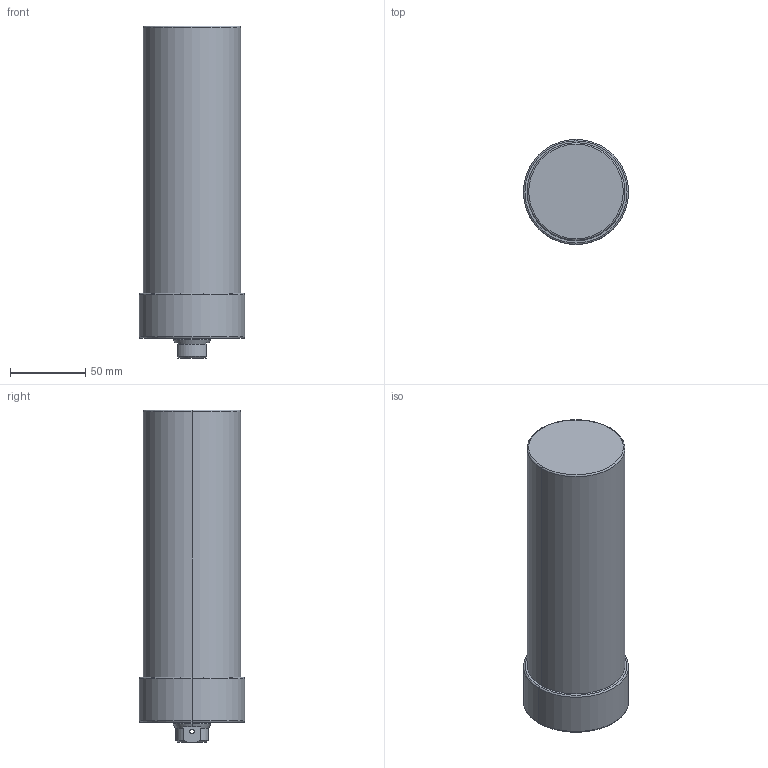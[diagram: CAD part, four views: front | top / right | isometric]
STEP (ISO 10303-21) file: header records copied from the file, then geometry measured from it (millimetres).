
FILE_DESCRIPTION (( 'STEP AP203' ), '1' );
FILE_NAME ('CLLU-065GB-145.STEP', '2020-01-07T06:49:23', ( '' ), ( '' ), 'SwSTEP 2.0', 'SolidWorks 2015', '' );
FILE_SCHEMA (( 'CONFIG_CONTROL_DESIGN' ));
Length unit declared in the file: millimetre
Products named in the file (1): CLLU-065GB-145
Bounding box: 70 x 70 x 221 mm (x, y, z)
Volume: 706483.6 mm3; surface area: 53429.5 mm2
Topology: 1 solids, 1 shells, 66 faces, 154 edges, 87 vertices
Faces by surface type: cylinder 26, cone 24, plane 10, torus 6
Entity records: 2001 total; most frequent: CARTESIAN_POINT 430, DIRECTION 342, ORIENTED_EDGE 288, EDGE_CURVE 144, AXIS2_PLACEMENT_3D 143, VERTEX_POINT 87, EDGE_LOOP 77, CIRCLE 76
